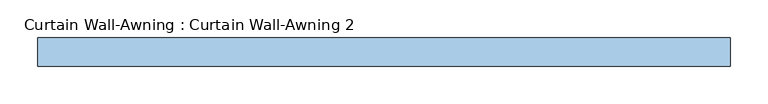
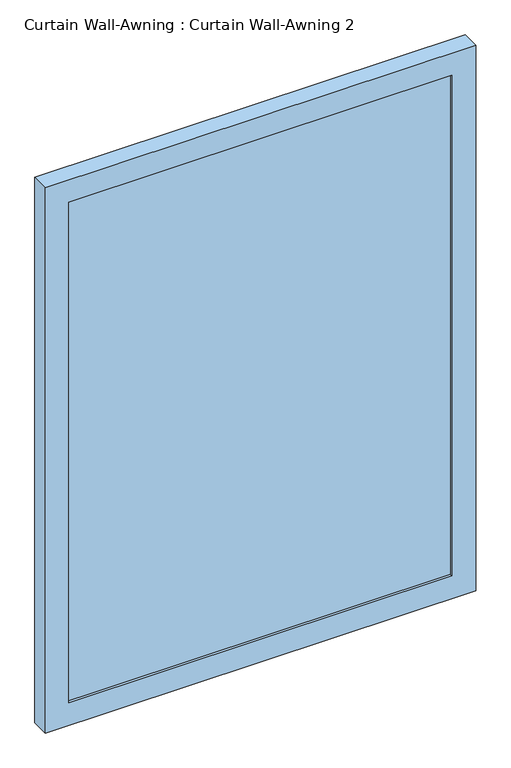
"""IFC4 building model written with IfcOpenShell, lengths in millimetres: window geometry, Curtain Wall-Awning : Curtain Wall-Awning 2."""

from ifc_helpers import new_model, si_unit, frame, origin, place, context, project, spatial, polyline, outline, extrude, source, transform, mapped, element, save


def curtain_wall_awning_curtain_wall_awning_2_abebb6bf(model_context):
    return source(origin(), model_context, "Body", "SweptSolid", [
        extrude(outline(polyline([(410.6333333, 19.05), (410.6333333, 6.35), (-410.6333333, 6.35), (-410.6333333, 19.05), (410.6333333, 19.05)])), frame((0.0, 0.0, 50.8), z_axis=(0.0, 0.0, 1.0), x_axis=(1.0, 0.0, 0.0)), (0.0, 0.0, 1.0), 1134.635445),
        extrude(outline(polyline([(1236.235445, -461.4333333), (0.0, -461.4333333), (0.0, 461.4333333), (1236.235445, 461.4333333), (1236.235445, -461.4333333)]), holes=[polyline([(1185.435445, -410.6333333), (1185.435445, 410.6333333), (50.8, 410.6333333), (50.8, -410.6333333), (1185.435445, -410.6333333)])]), frame((0.0, 0.0, 0.0), z_axis=(0.0, 1.0, 0.0), x_axis=(0.0, 0.0, 1.0)), (0.0, 0.0, 1.0), 38.1),
    ])


if __name__ == "__main__":
    model = new_model("IFC4")
    model_context = context("Model", 3, world=origin())
    ifc_project = project(units=[si_unit("LENGTHUNIT", "METRE", prefix="MILLI")], contexts=[model_context])
    site = spatial("IfcSite", under=ifc_project)
    building = spatial("IfcBuilding", under=site)
    placement = place(None, origin())
    curtain_wall_awning_curtain_wall_awning_2_shape = curtain_wall_awning_curtain_wall_awning_2_abebb6bf(model_context)
    element("IfcWindow", 1, ObjectType="Curtain Wall-Awning : Curtain Wall-Awning 2", at=placement, inside=building, context=model_context, shape_type="MappedRepresentation", body=[
        mapped(curtain_wall_awning_curtain_wall_awning_2_shape, transform((0.0, 0.0, 0.0), x_axis=(1.0, 0.0, 0.0), y_axis=(0.0, 1.0, 0.0), z_axis=(0.0, 0.0, 1.0))),
    ])
    save(model, "model.ifc")
